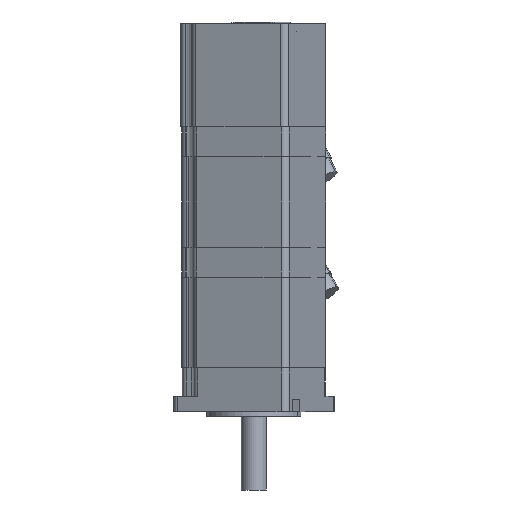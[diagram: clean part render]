
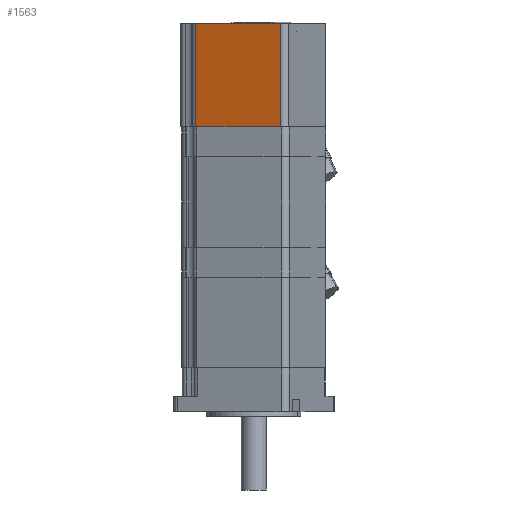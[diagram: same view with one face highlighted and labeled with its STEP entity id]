
A CAD part, front view. The second image highlights one B-rep face of the part: STEP entity #1563.
In plain terms, the highlighted planar face has unit normal (-0.393, -0.919, 0) as drawn and (0, -1, 0) by its records, which use the part's own axes.
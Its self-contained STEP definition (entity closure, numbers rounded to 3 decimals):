
#148 = VECTOR ( 'NONE', #8861, 1000. ) ;
#266 = ORIENTED_EDGE ( 'NONE', *, *, #6443, .F. ) ;
#453 = CARTESIAN_POINT ( 'NONE',  ( 11.379, -20.15, 33. ) ) ;
#692 = PLANE ( 'NONE',  #5628 ) ;
#815 = CARTESIAN_POINT ( 'NONE',  ( -18.15, -20.15, 0. ) ) ;
#842 = EDGE_LOOP ( 'NONE', ( #4154, #3781, #266, #5921 ) ) ;
#997 = CARTESIAN_POINT ( 'NONE',  ( 11.379, -20.15, 33. ) ) ;
#1460 = DIRECTION ( 'NONE',  ( 0., 1., 0. ) ) ;
#1563 = ADVANCED_FACE ( 'NONE', ( #3845 ), #692, .F. ) ;
#2541 = LINE ( 'NONE', #7883, #4286 ) ;
#2751 = LINE ( 'NONE', #8236, #2987 ) ;
#2915 = EDGE_CURVE ( 'NONE', #4873, #3842, #2751, .T. ) ;
#2987 = VECTOR ( 'NONE', #6725, 1000. ) ;
#3781 = ORIENTED_EDGE ( 'NONE', *, *, #7840, .F. ) ;
#3829 = CARTESIAN_POINT ( 'NONE',  ( 11.379, -20.15, 0. ) ) ;
#3842 = VERTEX_POINT ( 'NONE', #815 ) ;
#3845 = FACE_OUTER_BOUND ( 'NONE', #842, .T. ) ;
#4076 = DIRECTION ( 'NONE',  ( 1., 0., 0. ) ) ;
#4154 = ORIENTED_EDGE ( 'NONE', *, *, #7893, .T. ) ;
#4286 = VECTOR ( 'NONE', #4076, 1000. ) ;
#4396 = VECTOR ( 'NONE', #8044, 1000. ) ;
#4569 = CARTESIAN_POINT ( 'NONE',  ( -18.15, -20.15, 33. ) ) ;
#4873 = VERTEX_POINT ( 'NONE', #4569 ) ;
#5628 = AXIS2_PLACEMENT_3D ( 'NONE', #9775, #1460, #6740 ) ;
#5921 = ORIENTED_EDGE ( 'NONE', *, *, #2915, .T. ) ;
#6195 = LINE ( 'NONE', #8108, #148 ) ;
#6430 = LINE ( 'NONE', #453, #4396 ) ;
#6443 = EDGE_CURVE ( 'NONE', #4873, #6698, #2541, .T. ) ;
#6698 = VERTEX_POINT ( 'NONE', #997 ) ;
#6725 = DIRECTION ( 'NONE',  ( 0., 0., -1. ) ) ;
#6740 = DIRECTION ( 'NONE',  ( -1., 0., 0. ) ) ;
#7840 = EDGE_CURVE ( 'NONE', #6698, #9472, #6430, .T. ) ;
#7883 = CARTESIAN_POINT ( 'NONE',  ( -18.15, -20.15, 33. ) ) ;
#7893 = EDGE_CURVE ( 'NONE', #3842, #9472, #6195, .T. ) ;
#8044 = DIRECTION ( 'NONE',  ( 0., 0., -1. ) ) ;
#8108 = CARTESIAN_POINT ( 'NONE',  ( -18.15, -20.15, 0. ) ) ;
#8236 = CARTESIAN_POINT ( 'NONE',  ( -18.15, -20.15, 33. ) ) ;
#8861 = DIRECTION ( 'NONE',  ( 1., 0., 0. ) ) ;
#9472 = VERTEX_POINT ( 'NONE', #3829 ) ;
#9775 = CARTESIAN_POINT ( 'NONE',  ( -18.15, -20.15, 33. ) ) ;
